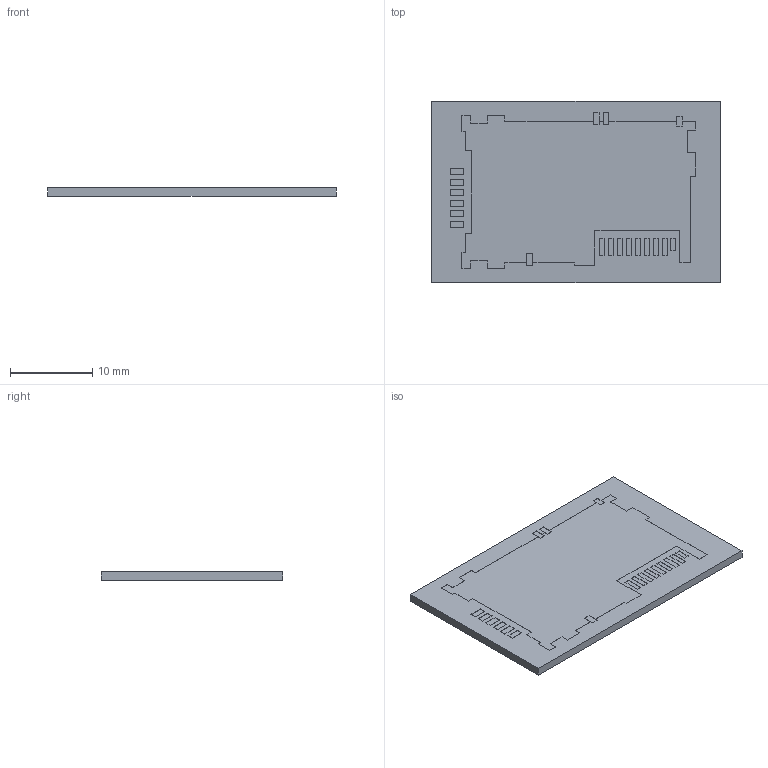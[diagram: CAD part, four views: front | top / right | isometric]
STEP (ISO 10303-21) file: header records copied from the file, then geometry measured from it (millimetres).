
FILE_DESCRIPTION((''),'2;1');
FILE_NAME('DSC20-PCB_1_PRT','2008-06-30T',('GRA'),(''),'PRO/ENGINEER BY PARAMETRIC TECHNOLOGY CORPORATION, 2006170','PRO/ENGINEER BY PARAMETRIC TECHNOLOGY CORPORATION, 2006170','');
FILE_SCHEMA(('CONFIG_CONTROL_DESIGN'));
Length unit declared in the file: millimetre
Products named in the file (1): DSC20-PCB_1_PRT
Bounding box: 35 x 22 x 1 mm (x, y, z)
Volume: 764.6 mm3; surface area: 1659.6 mm2
Topology: 1 solids, 1 shells, 142 faces, 372 edges, 248 vertices
Faces by surface type: plane 142
Entity records: 4314 total; most frequent: CARTESIAN_POINT 762, ORIENTED_EDGE 744, DIRECTION 656, VECTOR 372, LINE 372, EDGE_CURVE 372, VERTEX_POINT 248, EDGE_LOOP 158
